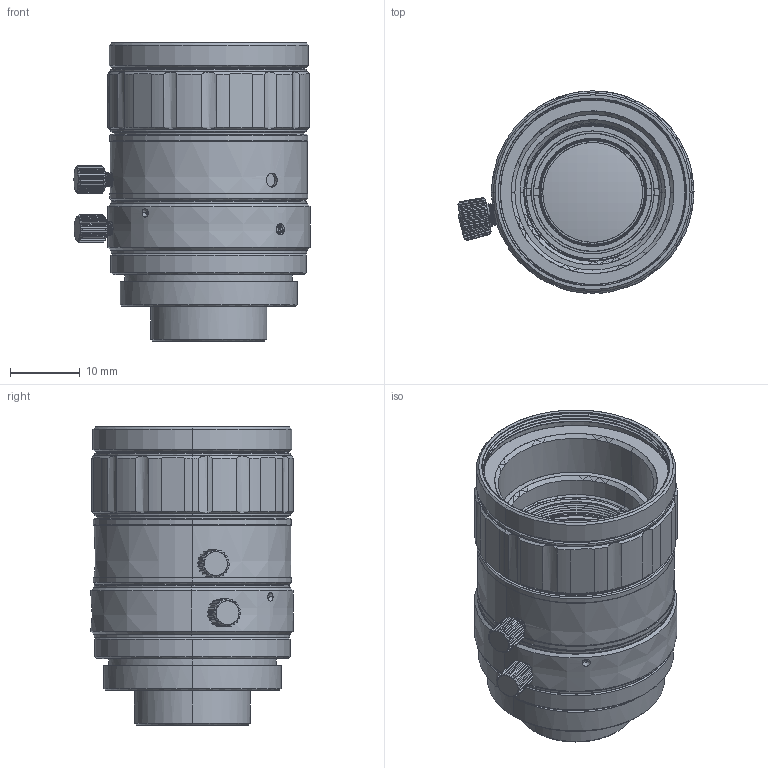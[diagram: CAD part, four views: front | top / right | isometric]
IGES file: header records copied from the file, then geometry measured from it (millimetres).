
Start section: SolidWorks IGES file using analytic representation for surfaces
Global section: file name: C:\Users\dingguolei\Desktop\FA镜头3D图-去掉了镜头上面的型号和LOGO（2025.05.14）\MFA117-S16.IGS; native system: SolidWorks 2017; preprocessor: SolidWorks 2017; author: dingguolei; date: 250515.174843; units: millimetre
Bounding box: 33.82 x 29.04 x 42.7 mm (x, y, z)
Surface area: 9971.7 mm2 (no closed solid volume)
Topology: 0 solids, 0 shells, 993 faces, 13772 edges, 13751 vertices
Faces by surface type: revolution 553, bspline 440
